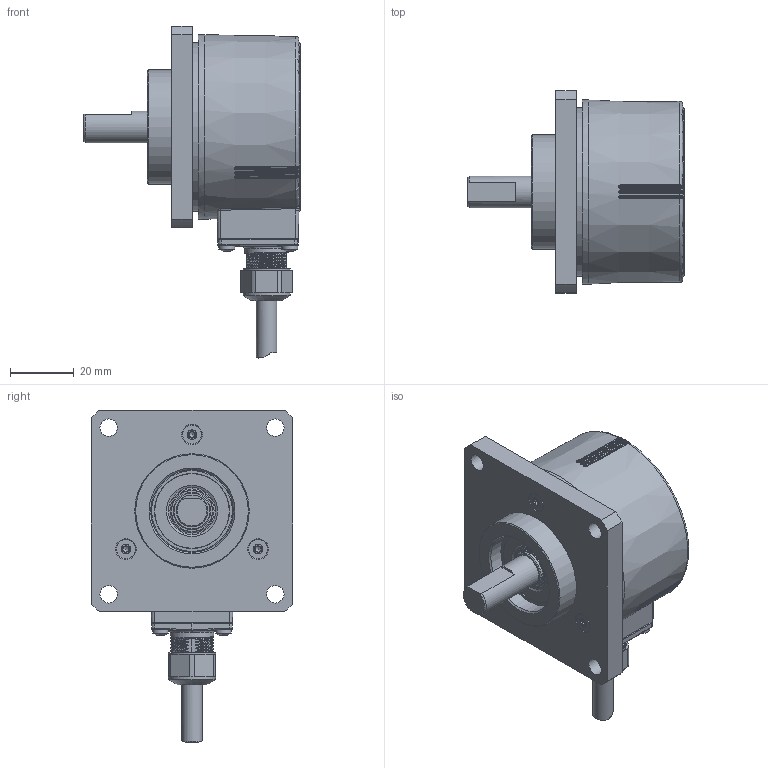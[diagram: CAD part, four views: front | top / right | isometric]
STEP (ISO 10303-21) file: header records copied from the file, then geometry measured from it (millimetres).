
FILE_DESCRIPTION( ( 'Unknown' ), '1' );
FILE_NAME( '//emea.baumernet.org/de05d/RD/caddy/k/GESAMT/EIL580/EIL580/3D/STEP/MarCom/EIL580-SQ10.5Rx.xxxxx.A.stp', 'Unknown', ( 'Unknown' ), ( 'Unknown' ), 'PSStep 19.0.9', 'Unknown', ' ' );
FILE_SCHEMA( ( 'AUTOMOTIVE_DESIGN { 1 0 10303 214 1 1 1 1 }' ) );
Length unit declared in the file: millimetre
Products named in the file (2): Assem1; 1_184
Assembly tree (1 placements, depth 2):
  Assem1
    1_184
Bounding box: 68 x 63.5 x 104.4 mm (x, y, z)
Volume: 127792.7 mm3; surface area: 26020.1 mm2
Topology: 1 solids, 23 shells, 811 faces, 2185 edges, 1400 vertices
Faces by surface type: cylinder 242, plane 238, bspline 171, cone 77, torus 48, sphere 35
Full cylindrical faces by diameter (mm): 2.46 x3, 2.5 x4, 3 x6, 3.24 x6, 3.4 x3, 5 x4, 5.5 x4, 6.5 x1, 7.5 x1, 7.7 x1, 8.2 x1, 9.8 x1, 10 x3, 10.5 x1, 11.8 x1, 12.8 x1, 12.85 x1, 13.138 x1, 13.35 x1, 13.8 x1, 14.8 x2, 23.446 x1, 24 x1, 26 x1, 36 x2, 53 x1, 58 x2, 59 x1
Entity records: 123369 total; most frequent: CARTESIAN_POINT 98952, ORIENTED_EDGE 3998, DIRECTION 3154, EDGE_CURVE 1999, VERTEX_POINT 1360, AXIS2_PLACEMENT_3D 1357, EDGE_LOOP 1016, FACE_OUTER_BOUND 898
